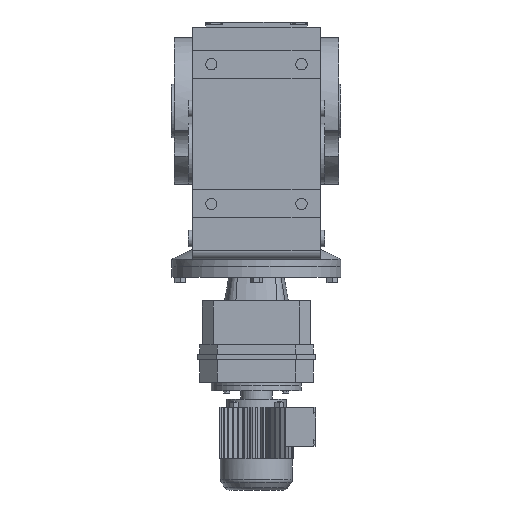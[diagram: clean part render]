
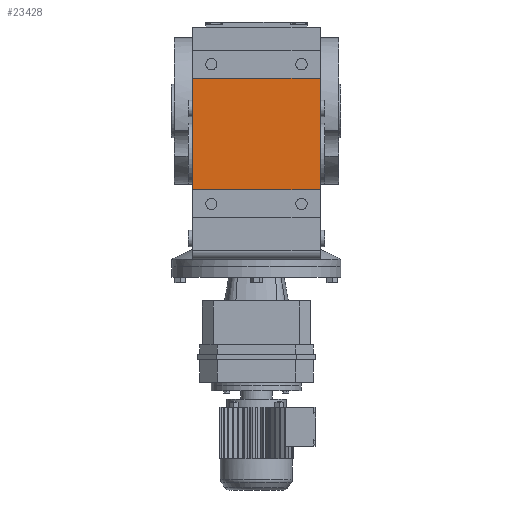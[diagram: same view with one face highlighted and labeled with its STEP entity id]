
A CAD part, front view. The second image highlights one B-rep face of the part: STEP entity #23428.
In plain terms, the highlighted planar face has unit normal (0, -1, 0).
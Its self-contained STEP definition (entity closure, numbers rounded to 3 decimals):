
#4585 = PLANE('',#4586);
#4586 = AXIS2_PLACEMENT_3D('',#4587,#4588,#4589);
#4587 = CARTESIAN_POINT('',(-113.,-239.725,-247.15));
#4588 = DIRECTION('',(-1.,0.,0.));
#4589 = DIRECTION('',(0.,0.,1.));
#4720 = PLANE('',#4721);
#4721 = AXIS2_PLACEMENT_3D('',#4722,#4723,#4724);
#4722 = CARTESIAN_POINT('',(113.,-239.725,-247.15));
#4723 = DIRECTION('',(-1.,0.,0.));
#4724 = DIRECTION('',(0.,0.,1.));
#11183 = VERTEX_POINT('',#11184);
#11184 = CARTESIAN_POINT('',(113.,-255.725,58.));
#11198 = PLANE('',#11199);
#11199 = AXIS2_PLACEMENT_3D('',#11200,#11201,#11202);
#11200 = CARTESIAN_POINT('',(-113.,-255.725,58.));
#11201 = DIRECTION('',(0.,0.,-1.));
#11202 = DIRECTION('',(-1.,0.,0.));
#11210 = EDGE_CURVE('',#11183,#11211,#11213,.T.);
#11211 = VERTEX_POINT('',#11212);
#11212 = CARTESIAN_POINT('',(113.,-255.725,-140.));
#11213 = SURFACE_CURVE('',#11214,(#11218,#11225),.PCURVE_S1.);
#11214 = LINE('',#11215,#11216);
#11215 = CARTESIAN_POINT('',(113.,-255.725,58.));
#11216 = VECTOR('',#11217,1.);
#11217 = DIRECTION('',(0.,0.,-1.));
#11218 = PCURVE('',#4720,#11219);
#11219 = DEFINITIONAL_REPRESENTATION('',(#11220),#11224);
#11220 = LINE('',#11221,#11222);
#11221 = CARTESIAN_POINT('',(305.15,-16.));
#11222 = VECTOR('',#11223,1.);
#11223 = DIRECTION('',(-1.,0.));
#11224 = ( GEOMETRIC_REPRESENTATION_CONTEXT(2) 
PARAMETRIC_REPRESENTATION_CONTEXT() REPRESENTATION_CONTEXT('2D SPACE',''
  ) );
#11225 = PCURVE('',#11226,#11231);
#11226 = PLANE('',#11227);
#11227 = AXIS2_PLACEMENT_3D('',#11228,#11229,#11230);
#11228 = CARTESIAN_POINT('',(-113.,-255.725,58.));
#11229 = DIRECTION('',(0.,-1.,0.));
#11230 = DIRECTION('',(0.,0.,-1.));
#11231 = DEFINITIONAL_REPRESENTATION('',(#11232),#11236);
#11232 = LINE('',#11233,#11234);
#11233 = CARTESIAN_POINT('',(0.,226.));
#11234 = VECTOR('',#11235,1.);
#11235 = DIRECTION('',(1.,0.));
#11236 = ( GEOMETRIC_REPRESENTATION_CONTEXT(2) 
PARAMETRIC_REPRESENTATION_CONTEXT() REPRESENTATION_CONTEXT('2D SPACE',''
  ) );
#11254 = PLANE('',#11255);
#11255 = AXIS2_PLACEMENT_3D('',#11256,#11257,#11258);
#11256 = CARTESIAN_POINT('',(-113.,-255.725,-140.));
#11257 = DIRECTION('',(0.,0.,1.));
#11258 = DIRECTION('',(0.,-1.,0.));
#12221 = VERTEX_POINT('',#12222);
#12222 = CARTESIAN_POINT('',(-113.,-255.725,-140.));
#12243 = EDGE_CURVE('',#12244,#12221,#12246,.T.);
#12244 = VERTEX_POINT('',#12245);
#12245 = CARTESIAN_POINT('',(-113.,-255.725,58.));
#12246 = SURFACE_CURVE('',#12247,(#12251,#12258),.PCURVE_S1.);
#12247 = LINE('',#12248,#12249);
#12248 = CARTESIAN_POINT('',(-113.,-255.725,58.));
#12249 = VECTOR('',#12250,1.);
#12250 = DIRECTION('',(0.,0.,-1.));
#12251 = PCURVE('',#4585,#12252);
#12252 = DEFINITIONAL_REPRESENTATION('',(#12253),#12257);
#12253 = LINE('',#12254,#12255);
#12254 = CARTESIAN_POINT('',(305.15,-16.));
#12255 = VECTOR('',#12256,1.);
#12256 = DIRECTION('',(-1.,0.));
#12257 = ( GEOMETRIC_REPRESENTATION_CONTEXT(2) 
PARAMETRIC_REPRESENTATION_CONTEXT() REPRESENTATION_CONTEXT('2D SPACE',''
  ) );
#12258 = PCURVE('',#11226,#12259);
#12259 = DEFINITIONAL_REPRESENTATION('',(#12260),#12264);
#12260 = LINE('',#12261,#12262);
#12261 = CARTESIAN_POINT('',(0.,0.));
#12262 = VECTOR('',#12263,1.);
#12263 = DIRECTION('',(1.,0.));
#12264 = ( GEOMETRIC_REPRESENTATION_CONTEXT(2) 
PARAMETRIC_REPRESENTATION_CONTEXT() REPRESENTATION_CONTEXT('2D SPACE',''
  ) );
#22911 = EDGE_CURVE('',#12244,#11183,#22912,.T.);
#22912 = SURFACE_CURVE('',#22913,(#22917,#22924),.PCURVE_S1.);
#22913 = LINE('',#22914,#22915);
#22914 = CARTESIAN_POINT('',(-113.,-255.725,58.));
#22915 = VECTOR('',#22916,1.);
#22916 = DIRECTION('',(1.,0.,0.));
#22917 = PCURVE('',#11198,#22918);
#22918 = DEFINITIONAL_REPRESENTATION('',(#22919),#22923);
#22919 = LINE('',#22920,#22921);
#22920 = CARTESIAN_POINT('',(0.,0.));
#22921 = VECTOR('',#22922,1.);
#22922 = DIRECTION('',(-1.,0.));
#22923 = ( GEOMETRIC_REPRESENTATION_CONTEXT(2) 
PARAMETRIC_REPRESENTATION_CONTEXT() REPRESENTATION_CONTEXT('2D SPACE',''
  ) );
#22924 = PCURVE('',#11226,#22925);
#22925 = DEFINITIONAL_REPRESENTATION('',(#22926),#22930);
#22926 = LINE('',#22927,#22928);
#22927 = CARTESIAN_POINT('',(0.,0.));
#22928 = VECTOR('',#22929,1.);
#22929 = DIRECTION('',(0.,1.));
#22930 = ( GEOMETRIC_REPRESENTATION_CONTEXT(2) 
PARAMETRIC_REPRESENTATION_CONTEXT() REPRESENTATION_CONTEXT('2D SPACE',''
  ) );
#23400 = EDGE_CURVE('',#12221,#11211,#23401,.T.);
#23401 = SURFACE_CURVE('',#23402,(#23406,#23413),.PCURVE_S1.);
#23402 = LINE('',#23403,#23404);
#23403 = CARTESIAN_POINT('',(-113.,-255.725,-140.));
#23404 = VECTOR('',#23405,1.);
#23405 = DIRECTION('',(1.,0.,0.));
#23406 = PCURVE('',#11254,#23407);
#23407 = DEFINITIONAL_REPRESENTATION('',(#23408),#23412);
#23408 = LINE('',#23409,#23410);
#23409 = CARTESIAN_POINT('',(0.,0.));
#23410 = VECTOR('',#23411,1.);
#23411 = DIRECTION('',(0.,1.));
#23412 = ( GEOMETRIC_REPRESENTATION_CONTEXT(2) 
PARAMETRIC_REPRESENTATION_CONTEXT() REPRESENTATION_CONTEXT('2D SPACE',''
  ) );
#23413 = PCURVE('',#11226,#23414);
#23414 = DEFINITIONAL_REPRESENTATION('',(#23415),#23419);
#23415 = LINE('',#23416,#23417);
#23416 = CARTESIAN_POINT('',(198.,0.));
#23417 = VECTOR('',#23418,1.);
#23418 = DIRECTION('',(0.,1.));
#23419 = ( GEOMETRIC_REPRESENTATION_CONTEXT(2) 
PARAMETRIC_REPRESENTATION_CONTEXT() REPRESENTATION_CONTEXT('2D SPACE',''
  ) );
#23428 = ADVANCED_FACE('',(#23429),#11226,.T.);
#23429 = FACE_BOUND('',#23430,.T.);
#23430 = EDGE_LOOP('',(#23431,#23432,#23433,#23434));
#23431 = ORIENTED_EDGE('',*,*,#23400,.T.);
#23432 = ORIENTED_EDGE('',*,*,#11210,.F.);
#23433 = ORIENTED_EDGE('',*,*,#22911,.F.);
#23434 = ORIENTED_EDGE('',*,*,#12243,.T.);
